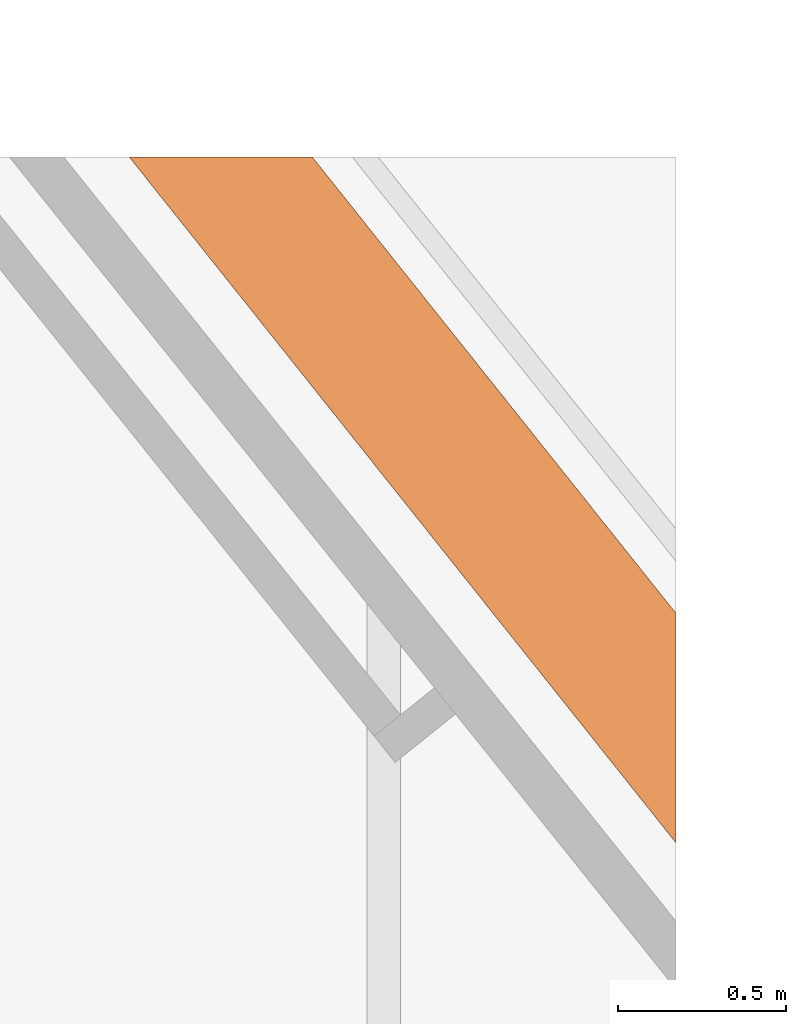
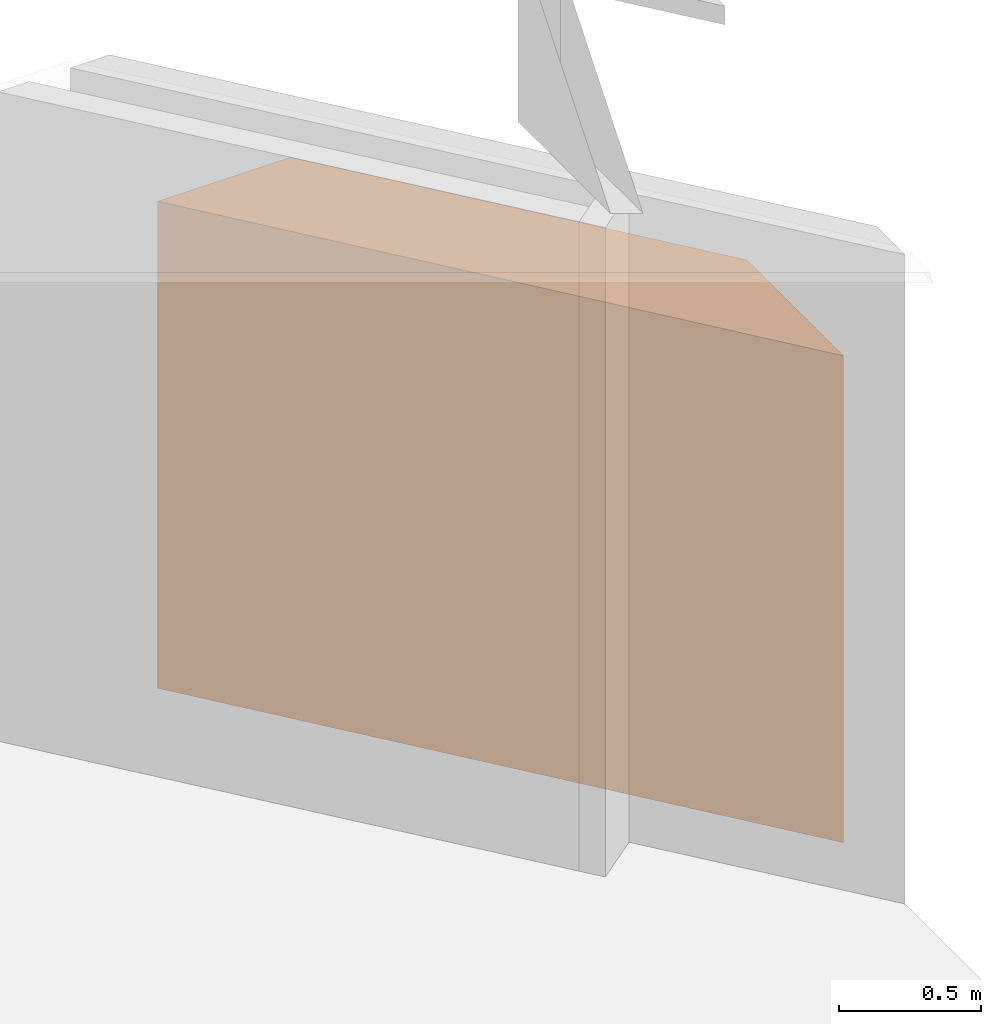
# One storey, part 7 of 7: 1 proxy.
"""IFC2X3 building model written with IfcOpenShell, lengths in millimetres."""

from ifc_helpers import new_model, entity, si_unit, converted_unit, derived_unit, direction, frame, origin_with_axes, place, context, subcontext, project, spatial, faceted_brep, material, type_object, element, save


model = new_model("IFC2X3")

# Units and contexts
model_context = context("Model", 3, precision=0.01, world=frame((0.0, 4.29681676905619e-09, 0.0)), true_north=direction((4.01073788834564e-13, 1.0)))
plan_context = context("Plan", 3, precision=0.01, world=frame((0.0, 4.29681676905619e-09, 0.0)), true_north=direction((4.01073788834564e-13, 1.0)))
body_context = subcontext(model_context, "Body", "Model", "MODEL_VIEW")
ifc_project = project(units=[converted_unit("PLANEANGLEUNIT", "DEGREE", entity("IfcPositiveLengthMeasure", 0.0174532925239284), si_unit("PLANEANGLEUNIT", "RADIAN"), dimensions=[0, 0, 0, 0, 0, 0, 0]), si_unit("AREAUNIT", "SQUARE_METRE"), si_unit("LENGTHUNIT", "METRE", prefix="MILLI"), si_unit("MASSUNIT", "GRAM", prefix="KILO"), si_unit("POWERUNIT", "WATT"), si_unit("PRESSUREUNIT", "PASCAL", prefix="KILO"), si_unit("FORCEUNIT", "NEWTON", prefix="KILO"), si_unit("ELECTRICVOLTAGEUNIT", "VOLT"), si_unit("ELECTRICCURRENTUNIT", "AMPERE"), si_unit("THERMODYNAMICTEMPERATUREUNIT", "DEGREE_CELSIUS"), si_unit("TIMEUNIT", "SECOND"), si_unit("VOLUMEUNIT", "CUBIC_METRE"), derived_unit("LINEARVELOCITYUNIT", [(si_unit("LENGTHUNIT", "METRE"), 1), (si_unit("TIMEUNIT", "SECOND"), -1)]), derived_unit("VOLUMETRICFLOWRATEUNIT", [(si_unit("VOLUMEUNIT", "CUBIC_METRE"), 1), (si_unit("TIMEUNIT", "SECOND"), -1)]), derived_unit("THERMALTRANSMITTANCEUNIT", [(si_unit("POWERUNIT", "WATT"), 1), (si_unit("THERMODYNAMICTEMPERATUREUNIT", "KELVIN"), -1), (si_unit("AREAUNIT", "SQUARE_METRE"), -1)]), derived_unit("SOUNDPRESSUREUNIT", [(si_unit("PRESSUREUNIT", "PASCAL"), 1)])], contexts=[model_context, plan_context])

# Site, building, storey
site_placement = place(None, origin_with_axes())
site = spatial("IfcSite", under=ifc_project, at=site_placement, Name="ENGM", CompositionType="ELEMENT")
building_placement = place(site_placement, origin_with_axes())
building = spatial("IfcBuilding", under=site, at=building_placement, Name="TS", CompositionType="ELEMENT")
storey_placement = place(building_placement, frame((0.0, 0.0, 210900.0), z_axis=(0.0, 0.0, 1.0), x_axis=(1.0, 0.0, 0.0)))
storey = spatial("IfcBuildingStorey", under=building, at=storey_placement, Name="Nivå F", CompositionType="ELEMENT", Elevation=210900.0)

# Proxy
ifc_material = material(Name="<Unnamed>")
building_element_proxy_type = type_object("IfcBuildingElementProxyType", Name="05.229 Dixons_Møblering_170306_fastmontert innredning:05.229 Dixons_Møblering_170306_fastmontert innredning", PredefinedType="NOTDEFINED", material=ifc_material)
proxy_placement = place(storey_placement, frame((735991.479813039, 446498.463734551, 0.0), z_axis=(0.0, 0.0, 1.0), x_axis=(1.0, 0.0, 0.0)))
element("IfcBuildingElementProxy", 1, at=proxy_placement, inside=storey, type_object=building_element_proxy_type, Name="05.229 Dixons_Møblering_170306_fastmontert innredning:05.229 Dixons_Møblering_170306_fastmontert innredning", ObjectType="05.229 Dixons_Møblering_170306_fastmontert innredning:05.229 Dixons_Møblering_170306_fastmontert innredning", context=body_context, shape_type="Brep", body=[
    faceted_brep([(-8472.61933035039, -287.039270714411, 0.0), (-8472.61933035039, -287.039270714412, 2100.0), (-6848.89002657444, -2323.89489159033, 2100.0), (-6848.89002657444, -2323.89489159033, 0.0), (-6848.89002657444, -1641.91506024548, 0.0), (-6848.89002657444, -1641.91506024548, 2100.0), (-7928.96241849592, -287.039270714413, 2100.0), (-7928.96241849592, -287.039270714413, 0.0)], [[[0, 1, 2, 3]], [[4, 5, 6, 7]], [[7, 0, 3, 4]], [[1, 6, 5, 2]], [[5, 4, 3, 2]], [[7, 6, 1, 0]]], orient=[[False], [False], [False], [False], [False], [False]]),
])

save(model, "model.ifc")
